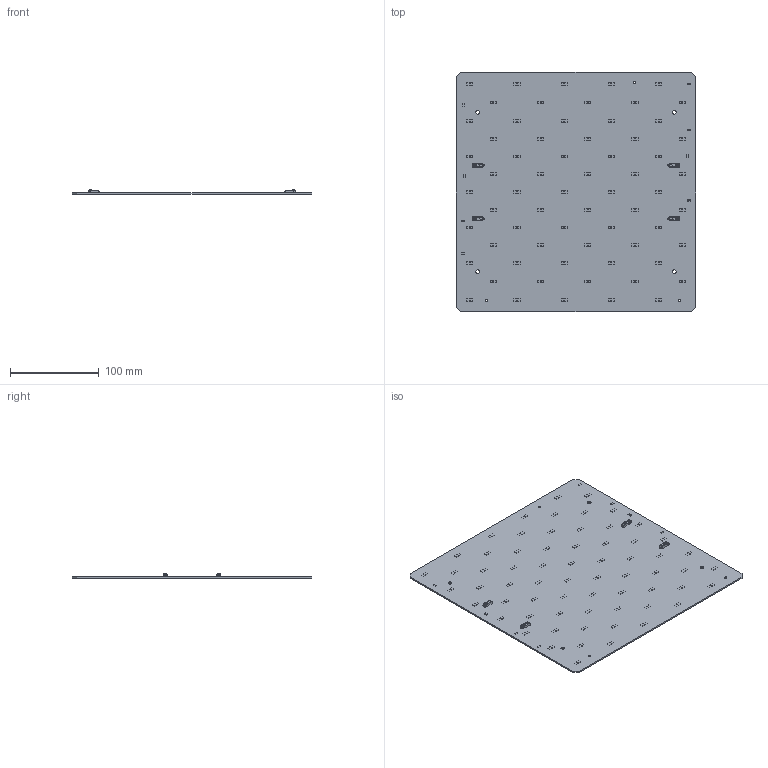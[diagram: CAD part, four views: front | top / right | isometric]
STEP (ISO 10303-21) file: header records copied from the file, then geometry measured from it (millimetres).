
FILE_DESCRIPTION((''),'2;1');
FILE_NAME('16206851_TW-QLE-G1-270','2015-05-27T',('bernhard.fink'),(''),'PRO/ENGINEER BY PARAMETRIC TECHNOLOGY CORPORATION, 2014000','PRO/ENGINEER BY PARAMETRIC TECHNOLOGY CORPORATION, 2014000','');
FILE_SCHEMA(('AUTOMOTIVE_DESIGN { 1 0 10303 214 1 1 1 1 }'));
Products named in the file (1): 16206851_TW-QLE-G1-270
Bounding box: 270 x 270 x 5.1 mm (x, y, z)
Volume: 121202.4 mm3; surface area: 149189.7 mm2
Topology: 1 solids, 1 shells, 2174 faces, 5378 edges, 3080 vertices
Faces by surface type: plane 1120, cylinder 450, revolution 256, bspline 232, cone 68, torus 24, sphere 24
Entity records: 102122 total; most frequent: CARTESIAN_POINT 22776, ORIENTED_EDGE 10196, DIRECTION 8822, PRESENTATION_STYLE_ASSIGNMENT 7529, STYLED_ITEM 5355, CURVE_STYLE 5354, EDGE_CURVE 5098, VECTOR 3282
